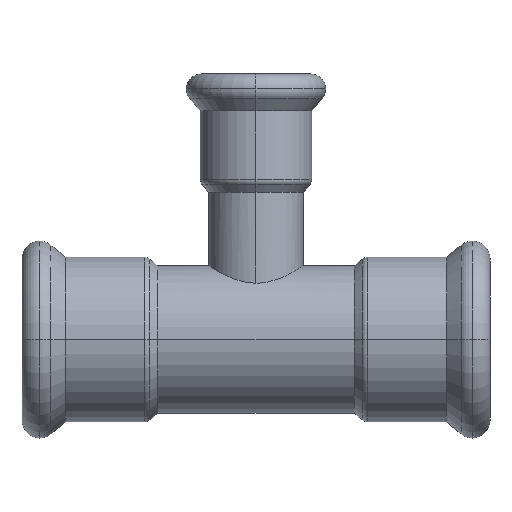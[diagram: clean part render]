
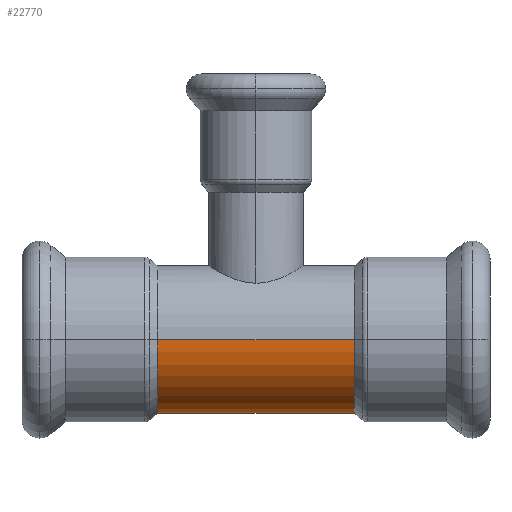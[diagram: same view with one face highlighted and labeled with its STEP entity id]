
A CAD part, left-side view. The second image highlights one B-rep face of the part: STEP entity #22770.
In plain terms, the highlighted cylindrical face has radius 14 mm (diameter 28 mm), a partial arc.
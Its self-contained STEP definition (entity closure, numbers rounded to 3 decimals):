
#2220=CARTESIAN_POINT('',(-216.976,14.621,
18.7));
#2230=VERTEX_POINT('',#2220);
#2410=CARTESIAN_POINT('',(-188.976,14.621,
18.7));
#2420=VERTEX_POINT('',#2410);
#2450=CARTESIAN_POINT('',(-202.976,14.621,
18.7));
#2460=DIRECTION('',(0.,0.,1.));
#2470=DIRECTION('',(1.,0.,0.));
#2480=AXIS2_PLACEMENT_3D('',#2450,#2460,#2470);
#2490=CIRCLE('',#2480,14.);
#2500=EDGE_CURVE('',#2230,#2420,#2490,.T.);
#5090=CARTESIAN_POINT('',(-202.976,14.621,
18.7));
#5100=DIRECTION('',(0.,0.,1.));
#5110=DIRECTION('',(1.,0.,0.));
#5120=AXIS2_PLACEMENT_3D('',#5090,#5100,#5110);
#5130=CYLINDRICAL_SURFACE('',#5120,14.);
#10490=CARTESIAN_POINT('',(-216.976,14.621,
-18.7));
#10500=VERTEX_POINT('',#10490);
#10680=CARTESIAN_POINT('',(-188.976,14.621,
-18.7));
#10690=VERTEX_POINT('',#10680);
#10720=CARTESIAN_POINT('',(-202.976,14.621,
-18.7));
#10730=DIRECTION('',(0.,0.,-1.));
#10740=DIRECTION('',(1.,0.,0.));
#10750=AXIS2_PLACEMENT_3D('',#10720,#10730,#10740);
#10760=CIRCLE('',#10750,14.);
#13530=CARTESIAN_POINT('',(-188.976,14.621,
18.7));
#13540=DIRECTION('',(0.,0.,1.));
#13550=VECTOR('',#13540,1.);
#13560=LINE('',#13530,#13550);
#13570=EDGE_CURVE('',#10690,#2420,#13560,.T.);
#13610=CARTESIAN_POINT('',(-216.976,14.621,
18.7));
#13620=DIRECTION('',(0.,0.,1.));
#13630=VECTOR('',#13620,1.);
#13640=LINE('',#13610,#13630);
#13650=EDGE_CURVE('',#10500,#2230,#13640,.T.);
#22700=ORIENTED_EDGE('',*,*,#13570,.T.);
#22710=EDGE_CURVE('',#10690,#10500,#10760,.T.);
#22720=ORIENTED_EDGE('',*,*,#22710,.F.);
#22730=ORIENTED_EDGE('',*,*,#13650,.F.);
#22740=ORIENTED_EDGE('',*,*,#2500,.F.);
#22750=EDGE_LOOP('',(#22740,#22730,#22720,#22700));
#22760=FACE_OUTER_BOUND('',#22750,.T.);
#22770=ADVANCED_FACE('',(#22760),#5130,.T.);
